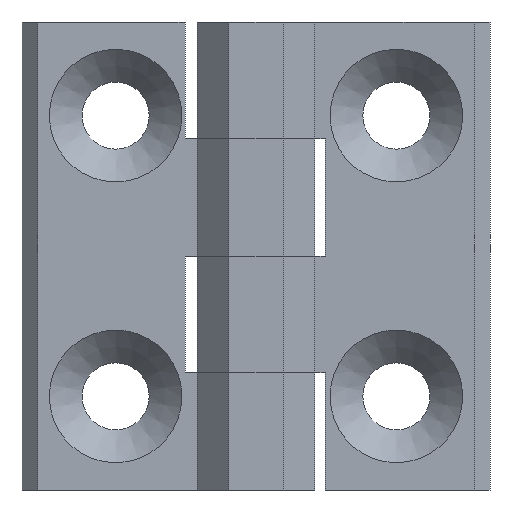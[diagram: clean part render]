
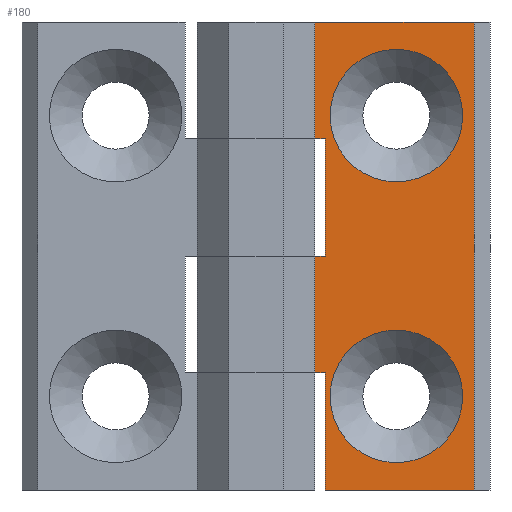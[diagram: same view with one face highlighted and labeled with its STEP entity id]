
A CAD part, front view. The second image highlights one B-rep face of the part: STEP entity #180.
In plain terms, the highlighted planar face has unit normal (0, -1, 0).
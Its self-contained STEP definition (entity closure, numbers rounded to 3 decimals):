
#180 = ADVANCED_FACE( '', ( #274, #275, #276 ), #277, .F. );
#274 = FACE_BOUND( '', #460, .T. );
#275 = FACE_BOUND( '', #461, .T. );
#276 = FACE_OUTER_BOUND( '', #462, .T. );
#277 = PLANE( '', #463 );
#460 = EDGE_LOOP( '', ( #704 ) );
#461 = EDGE_LOOP( '', ( #705 ) );
#462 = EDGE_LOOP( '', ( #706, #707, #708, #709, #710, #711, #712, #713, #714, #715 ) );
#463 = AXIS2_PLACEMENT_3D( '', #716, #717, #718 );
#704 = ORIENTED_EDGE( '', *, *, #1243, .T. );
#705 = ORIENTED_EDGE( '', *, *, #1244, .T. );
#706 = ORIENTED_EDGE( '', *, *, #1245, .F. );
#707 = ORIENTED_EDGE( '', *, *, #1246, .F. );
#708 = ORIENTED_EDGE( '', *, *, #1247, .F. );
#709 = ORIENTED_EDGE( '', *, *, #1248, .T. );
#710 = ORIENTED_EDGE( '', *, *, #1201, .F. );
#711 = ORIENTED_EDGE( '', *, *, #1249, .F. );
#712 = ORIENTED_EDGE( '', *, *, #1250, .T. );
#713 = ORIENTED_EDGE( '', *, *, #1242, .F. );
#714 = ORIENTED_EDGE( '', *, *, #1251, .F. );
#715 = ORIENTED_EDGE( '', *, *, #1252, .T. );
#716 = CARTESIAN_POINT( '', ( 3.75, 0.5, 30. ) );
#717 = DIRECTION( '', ( 0., 1., 0. ) );
#718 = DIRECTION( '', ( 0., 0., 1. ) );
#1201 = EDGE_CURVE( '', #1382, #1383, #1384, .T. );
#1242 = EDGE_CURVE( '', #1456, #1454, #1458, .T. );
#1243 = EDGE_CURVE( '', #1459, #1459, #1460, .T. );
#1244 = EDGE_CURVE( '', #1461, #1461, #1462, .T. );
#1245 = EDGE_CURVE( '', #1463, #1464, #1465, .T. );
#1246 = EDGE_CURVE( '', #1466, #1463, #1467, .T. );
#1247 = EDGE_CURVE( '', #1468, #1466, #1469, .T. );
#1248 = EDGE_CURVE( '', #1468, #1383, #1470, .T. );
#1249 = EDGE_CURVE( '', #1471, #1382, #1472, .T. );
#1250 = EDGE_CURVE( '', #1471, #1454, #1473, .T. );
#1251 = EDGE_CURVE( '', #1474, #1456, #1475, .T. );
#1252 = EDGE_CURVE( '', #1474, #1464, #1476, .T. );
#1382 = VERTEX_POINT( '', #1688 );
#1383 = VERTEX_POINT( '', #1689 );
#1384 = LINE( '', #1690, #1691 );
#1454 = VERTEX_POINT( '', #1791 );
#1456 = VERTEX_POINT( '', #1794 );
#1458 = LINE( '', #1797, #1798 );
#1459 = VERTEX_POINT( '', #1799 );
#1460 = CIRCLE( '', #1800, 4.25 );
#1461 = VERTEX_POINT( '', #1801 );
#1462 = CIRCLE( '', #1802, 4.25 );
#1463 = VERTEX_POINT( '', #1803 );
#1464 = VERTEX_POINT( '', #1804 );
#1465 = LINE( '', #1805, #1806 );
#1466 = VERTEX_POINT( '', #1807 );
#1467 = LINE( '', #1808, #1809 );
#1468 = VERTEX_POINT( '', #1810 );
#1469 = LINE( '', #1811, #1812 );
#1470 = LINE( '', #1813, #1814 );
#1471 = VERTEX_POINT( '', #1815 );
#1472 = LINE( '', #1816, #1817 );
#1473 = LINE( '', #1818, #1819 );
#1474 = VERTEX_POINT( '', #1820 );
#1475 = LINE( '', #1821, #1822 );
#1476 = LINE( '', #1823, #1824 );
#1688 = CARTESIAN_POINT( '', ( 4.45, 0.5, 7.5 ) );
#1689 = CARTESIAN_POINT( '', ( 3.75, 0.5, 7.5 ) );
#1690 = CARTESIAN_POINT( '', ( 3.75, 0.5, 7.5 ) );
#1691 = VECTOR( '', #2139, 1000. );
#1791 = CARTESIAN_POINT( '', ( 14., 0.5, 0. ) );
#1794 = CARTESIAN_POINT( '', ( 14., 0.5, 30. ) );
#1797 = CARTESIAN_POINT( '', ( 14., 0.5, 30. ) );
#1798 = VECTOR( '', #2196, 1000. );
#1799 = CARTESIAN_POINT( '', ( 9., 0.5, 28.25 ) );
#1800 = AXIS2_PLACEMENT_3D( '', #2197, #2198, #2199 );
#1801 = CARTESIAN_POINT( '', ( 9., 0.5, 10.25 ) );
#1802 = AXIS2_PLACEMENT_3D( '', #2200, #2201, #2202 );
#1803 = CARTESIAN_POINT( '', ( 4.45, 0.5, 22.5 ) );
#1804 = CARTESIAN_POINT( '', ( 3.75, 0.5, 22.5 ) );
#1805 = CARTESIAN_POINT( '', ( 3.75, 0.5, 22.5 ) );
#1806 = VECTOR( '', #2203, 1000. );
#1807 = CARTESIAN_POINT( '', ( 4.45, 0.5, 15. ) );
#1808 = CARTESIAN_POINT( '', ( 4.45, 0.5, 30. ) );
#1809 = VECTOR( '', #2204, 1000. );
#1810 = CARTESIAN_POINT( '', ( 3.75, 0.5, 15. ) );
#1811 = CARTESIAN_POINT( '', ( 3.75, 0.5, 15. ) );
#1812 = VECTOR( '', #2205, 1000. );
#1813 = CARTESIAN_POINT( '', ( 3.75, 0.5, 30. ) );
#1814 = VECTOR( '', #2206, 1000. );
#1815 = CARTESIAN_POINT( '', ( 4.45, 0.5, 0. ) );
#1816 = CARTESIAN_POINT( '', ( 4.45, 0.5, 30. ) );
#1817 = VECTOR( '', #2207, 1000. );
#1818 = CARTESIAN_POINT( '', ( 3.75, 0.5, 0. ) );
#1819 = VECTOR( '', #2208, 1000. );
#1820 = CARTESIAN_POINT( '', ( 3.75, 0.5, 30. ) );
#1821 = CARTESIAN_POINT( '', ( 3.75, 0.5, 30. ) );
#1822 = VECTOR( '', #2209, 1000. );
#1823 = CARTESIAN_POINT( '', ( 3.75, 0.5, 30. ) );
#1824 = VECTOR( '', #2210, 1000. );
#2139 = DIRECTION( '', ( -1., 0., 0. ) );
#2196 = DIRECTION( '', ( 0., 0., -1. ) );
#2197 = CARTESIAN_POINT( '', ( 9., 0.5, 24. ) );
#2198 = DIRECTION( '', ( 0., 1., 0. ) );
#2199 = DIRECTION( '', ( 0., 0., 1. ) );
#2200 = CARTESIAN_POINT( '', ( 9., 0.5, 6. ) );
#2201 = DIRECTION( '', ( 0., 1., 0. ) );
#2202 = DIRECTION( '', ( 0., 0., 1. ) );
#2203 = DIRECTION( '', ( -1., 0., 0. ) );
#2204 = DIRECTION( '', ( 0., 0., 1. ) );
#2205 = DIRECTION( '', ( 1., 0., 0. ) );
#2206 = DIRECTION( '', ( 0., 0., -1. ) );
#2207 = DIRECTION( '', ( 0., 0., 1. ) );
#2208 = DIRECTION( '', ( 1., 0., 0. ) );
#2209 = DIRECTION( '', ( 1., 0., 0. ) );
#2210 = DIRECTION( '', ( 0., 0., -1. ) );
